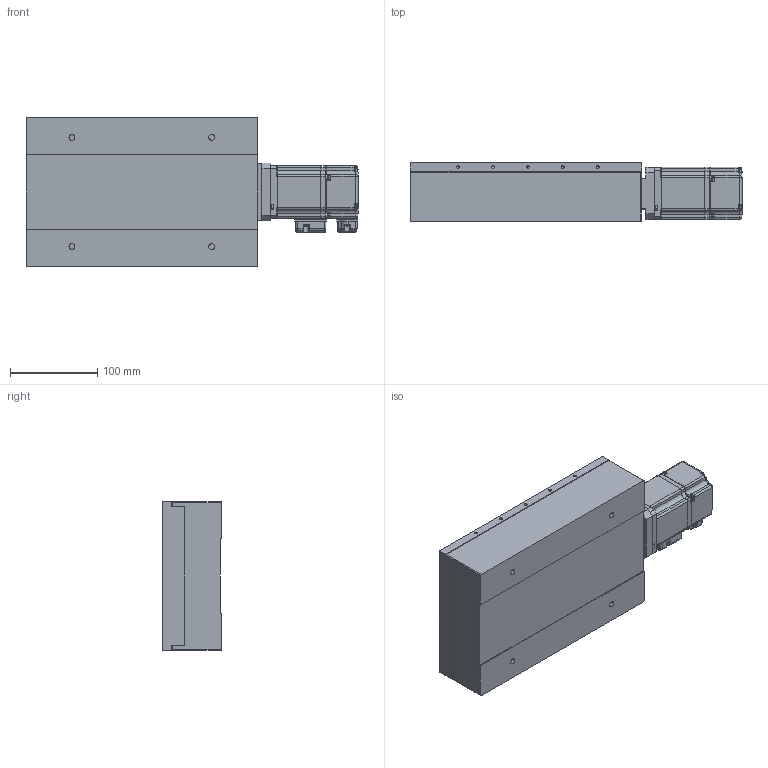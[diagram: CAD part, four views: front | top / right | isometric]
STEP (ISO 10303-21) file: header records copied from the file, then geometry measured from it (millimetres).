
FILE_DESCRIPTION (( 'STEP AP203' ), '1' );
FILE_NAME ('NPS-AC-20-10x.STEP', '2019-09-23T05:56:32', ( '' ), ( '' ), 'SwSTEP 2.0', 'SolidWorks 2015', '' );
FILE_SCHEMA (( 'CONFIG_CONTROL_DESIGN' ));
Length unit declared in the file: millimetre
Products named in the file (3): NPS-AC-20-10x; NPS-AC-20-10x_移動部; NPS-AC-20-10x_固定部
Assembly tree (2 placements, depth 2):
  NPS-AC-20-10x
    NPS-AC-20-10x_移動部
    NPS-AC-20-10x_固定部
Bounding box: 380 x 67 x 170 mm (x, y, z)
Volume: 978507.2 mm3; surface area: 316213.8 mm2
Topology: 1 solids, 34 shells, 913 faces, 2617 edges, 1729 vertices
Faces by surface type: plane 353, cylinder 330, bspline 160, cone 60, torus 10
Entity records: 39350 total; most frequent: CARTESIAN_POINT 16739, ORIENTED_EDGE 4526, DIRECTION 4363, EDGE_CURVE 2580, VERTEX_POINT 1729, AXIS2_PLACEMENT_3D 1524, LINE 1315, VECTOR 1315
